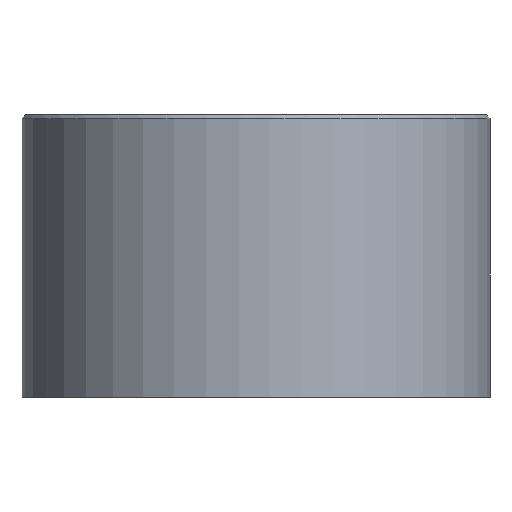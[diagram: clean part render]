
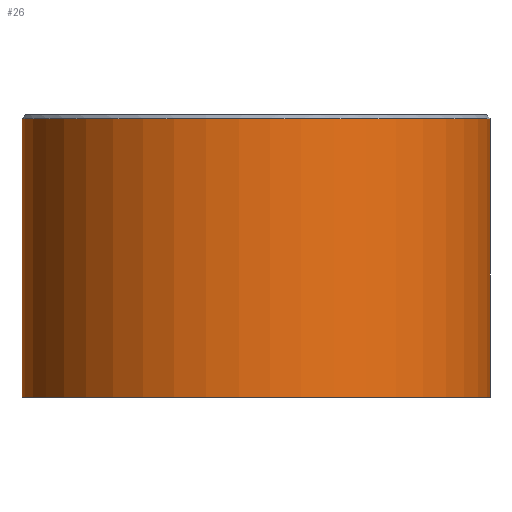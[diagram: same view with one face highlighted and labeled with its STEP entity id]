
A CAD part, front view. The second image highlights one B-rep face of the part: STEP entity #26.
In plain terms, the highlighted free-form (B-spline) face has degree [2, 1] with [5, 2] control points.
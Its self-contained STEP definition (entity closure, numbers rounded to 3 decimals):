
#26=ADVANCED_FACE('',(#34),#130,.T.);
#34=FACE_OUTER_BOUND('',#42,.T.);
#42=EDGE_LOOP('',(#52,#53,#54,#55));
#52=ORIENTED_EDGE('',*,*,#92,.T.);
#53=ORIENTED_EDGE('',*,*,#84,.F.);
#54=ORIENTED_EDGE('',*,*,#89,.F.);
#55=ORIENTED_EDGE('',*,*,#88,.T.);
#84=EDGE_CURVE('',#116,#122,#104,.T.);
#88=EDGE_CURVE('',#119,#121,#108,.T.);
#89=EDGE_CURVE('',#119,#116,#109,.T.);
#92=EDGE_CURVE('',#121,#122,#110,.T.);
#104=(
BOUNDED_CURVE()
B_SPLINE_CURVE(2,(#292,#293,#294,#295,#296),.UNSPECIFIED.,.F.,.F.)
B_SPLINE_CURVE_WITH_KNOTS((3,2,3),(-75.398,-56.549,-37.699),
 .UNSPECIFIED.)
CURVE()
GEOMETRIC_REPRESENTATION_ITEM()
RATIONAL_B_SPLINE_CURVE((1.,0.707,1.,0.707,1.))
REPRESENTATION_ITEM('')
);
#108=(
BOUNDED_CURVE()
B_SPLINE_CURVE(2,(#309,#310,#311,#312,#313),.UNSPECIFIED.,.F.,.F.)
B_SPLINE_CURVE_WITH_KNOTS((3,2,3),(0.,18.535,37.071),
 .UNSPECIFIED.)
CURVE()
GEOMETRIC_REPRESENTATION_ITEM()
RATIONAL_B_SPLINE_CURVE((1.,0.707,1.,0.707,1.))
REPRESENTATION_ITEM('')
);
#109=(
BOUNDED_CURVE()
B_SPLINE_CURVE(1,(#314,#315),.UNSPECIFIED.,.F.,.F.)
B_SPLINE_CURVE_WITH_KNOTS((2,2),(0.2,14.5),.UNSPECIFIED.)
CURVE()
GEOMETRIC_REPRESENTATION_ITEM()
RATIONAL_B_SPLINE_CURVE((1.,1.))
REPRESENTATION_ITEM('')
);
#110=(
BOUNDED_CURVE()
B_SPLINE_CURVE(1,(#337,#338),.UNSPECIFIED.,.F.,.F.)
B_SPLINE_CURVE_WITH_KNOTS((2,2),(0.2,14.5),.UNSPECIFIED.)
CURVE()
GEOMETRIC_REPRESENTATION_ITEM()
RATIONAL_B_SPLINE_CURVE((1.,1.))
REPRESENTATION_ITEM('')
);
#116=VERTEX_POINT('',#282);
#119=VERTEX_POINT('',#285);
#121=VERTEX_POINT('',#287);
#122=VERTEX_POINT('',#288);
#130=(
BOUNDED_SURFACE()
B_SPLINE_SURFACE(2,1,((#164,#165),(#166,#167),(#168,#169),(#170,#171),(#172,
#173)),.UNSPECIFIED.,.F.,.F.,.F.)
B_SPLINE_SURFACE_WITH_KNOTS((3,2,3),(2,2),(-75.398,-56.549,
-37.699),(0.,14.5),.UNSPECIFIED.)
GEOMETRIC_REPRESENTATION_ITEM()
RATIONAL_B_SPLINE_SURFACE(((1.,1.),(0.707,0.707),
(1.,1.),(0.707,0.707),(1.,1.)))
REPRESENTATION_ITEM('')
SURFACE()
);
#164=CARTESIAN_POINT('',(12.,0.,-27.));
#165=CARTESIAN_POINT('',(12.,0.,-41.5));
#166=CARTESIAN_POINT('',(12.,-12.,-27.));
#167=CARTESIAN_POINT('',(12.,-12.,-41.5));
#168=CARTESIAN_POINT('',(0.,-12.,-27.));
#169=CARTESIAN_POINT('',(0.,-12.,-41.5));
#170=CARTESIAN_POINT('',(-12.,-12.,-27.));
#171=CARTESIAN_POINT('',(-12.,-12.,-41.5));
#172=CARTESIAN_POINT('',(-12.,0.,-27.));
#173=CARTESIAN_POINT('',(-12.,0.,-41.5));
#282=CARTESIAN_POINT('',(12.,0.,-41.5));
#285=CARTESIAN_POINT('',(12.,0.,-27.2));
#287=CARTESIAN_POINT('',(-12.,0.,-27.2));
#288=CARTESIAN_POINT('',(-12.,0.,-41.5));
#292=CARTESIAN_POINT('',(12.,0.,-41.5));
#293=CARTESIAN_POINT('',(12.,-12.,-41.5));
#294=CARTESIAN_POINT('',(0.,-12.,-41.5));
#295=CARTESIAN_POINT('',(-12.,-12.,-41.5));
#296=CARTESIAN_POINT('',(-12.,0.,-41.5));
#309=CARTESIAN_POINT('',(12.,0.,-27.2));
#310=CARTESIAN_POINT('',(12.,-12.,-27.2));
#311=CARTESIAN_POINT('',(0.,-12.,-27.2));
#312=CARTESIAN_POINT('',(-12.,-12.,-27.2));
#313=CARTESIAN_POINT('',(-12.,0.,-27.2));
#314=CARTESIAN_POINT('',(12.,0.,-27.2));
#315=CARTESIAN_POINT('',(12.,0.,-41.5));
#337=CARTESIAN_POINT('',(-12.,0.,-27.2));
#338=CARTESIAN_POINT('',(-12.,0.,-41.5));
